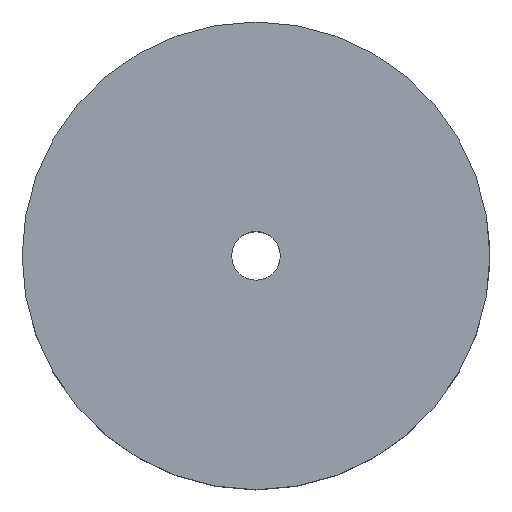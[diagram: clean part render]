
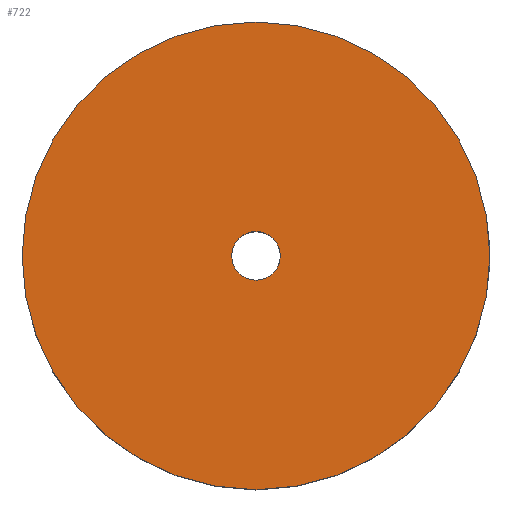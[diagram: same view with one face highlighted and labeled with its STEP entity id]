
A CAD part, top view. The second image highlights one B-rep face of the part: STEP entity #722.
In plain terms, the highlighted planar face has unit normal (0, 0, 1).
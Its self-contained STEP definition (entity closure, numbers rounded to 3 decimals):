
#31 = CYLINDRICAL_SURFACE('',#32,40.);
#32 = AXIS2_PLACEMENT_3D('',#33,#34,#35);
#33 = CARTESIAN_POINT('',(0.,0.,0.));
#34 = DIRECTION('',(-0.,-0.,-1.));
#35 = DIRECTION('',(1.,0.,0.));
#176 = VERTEX_POINT('',#177);
#177 = CARTESIAN_POINT('',(40.,0.,25.));
#198 = EDGE_CURVE('',#176,#176,#199,.T.);
#199 = SURFACE_CURVE('',#200,(#205,#212),.PCURVE_S1.);
#200 = CIRCLE('',#201,40.);
#201 = AXIS2_PLACEMENT_3D('',#202,#203,#204);
#202 = CARTESIAN_POINT('',(0.,0.,25.));
#203 = DIRECTION('',(0.,0.,1.));
#204 = DIRECTION('',(1.,0.,0.));
#205 = PCURVE('',#31,#206);
#206 = DEFINITIONAL_REPRESENTATION('',(#207),#211);
#207 = LINE('',#208,#209);
#208 = CARTESIAN_POINT('',(-0.,-25.));
#209 = VECTOR('',#210,1.);
#210 = DIRECTION('',(-1.,0.));
#211 = ( GEOMETRIC_REPRESENTATION_CONTEXT(2) 
PARAMETRIC_REPRESENTATION_CONTEXT() REPRESENTATION_CONTEXT('2D SPACE',''
  ) );
#212 = PCURVE('',#213,#218);
#213 = PLANE('',#214);
#214 = AXIS2_PLACEMENT_3D('',#215,#216,#217);
#215 = CARTESIAN_POINT('',(0.,0.,
    25.));
#216 = DIRECTION('',(0.,0.,1.));
#217 = DIRECTION('',(1.,0.,-0.));
#218 = DEFINITIONAL_REPRESENTATION('',(#219),#223);
#219 = CIRCLE('',#220,40.);
#220 = AXIS2_PLACEMENT_2D('',#221,#222);
#221 = CARTESIAN_POINT('',(0.,0.));
#222 = DIRECTION('',(1.,0.));
#223 = ( GEOMETRIC_REPRESENTATION_CONTEXT(2) 
PARAMETRIC_REPRESENTATION_CONTEXT() REPRESENTATION_CONTEXT('2D SPACE',''
  ) );
#344 = CYLINDRICAL_SURFACE('',#345,4.15);
#345 = AXIS2_PLACEMENT_3D('',#346,#347,#348);
#346 = CARTESIAN_POINT('',(0.,0.,-1.));
#347 = DIRECTION('',(-0.,-0.,-1.));
#348 = DIRECTION('',(1.,0.,0.));
#722 = ADVANCED_FACE('',(#723,#726),#213,.T.);
#723 = FACE_BOUND('',#724,.T.);
#724 = EDGE_LOOP('',(#725));
#725 = ORIENTED_EDGE('',*,*,#198,.T.);
#726 = FACE_BOUND('',#727,.T.);
#727 = EDGE_LOOP('',(#728));
#728 = ORIENTED_EDGE('',*,*,#729,.T.);
#729 = EDGE_CURVE('',#730,#730,#732,.T.);
#730 = VERTEX_POINT('',#731);
#731 = CARTESIAN_POINT('',(4.15,0.,25.));
#732 = SURFACE_CURVE('',#733,(#738,#749),.PCURVE_S1.);
#733 = CIRCLE('',#734,4.15);
#734 = AXIS2_PLACEMENT_3D('',#735,#736,#737);
#735 = CARTESIAN_POINT('',(0.,0.,25.));
#736 = DIRECTION('',(0.,0.,-1.));
#737 = DIRECTION('',(1.,0.,0.));
#738 = PCURVE('',#213,#739);
#739 = DEFINITIONAL_REPRESENTATION('',(#740),#748);
#740 = ( BOUNDED_CURVE() B_SPLINE_CURVE(2,(#741,#742,#743,#744,#745,#746
,#747),.UNSPECIFIED.,.T.,.F.) B_SPLINE_CURVE_WITH_KNOTS((1,2,2,2,2,1),(
    -2.094,0.,2.094,4.189,6.283,
8.378),.UNSPECIFIED.) CURVE() GEOMETRIC_REPRESENTATION_ITEM() 
RATIONAL_B_SPLINE_CURVE((1.,0.5,1.,0.5,1.,0.5,1.)) REPRESENTATION_ITEM(
  '') );
#741 = CARTESIAN_POINT('',(4.15,0.));
#742 = CARTESIAN_POINT('',(4.15,-7.188));
#743 = CARTESIAN_POINT('',(-2.075,-3.594));
#744 = CARTESIAN_POINT('',(-8.3,0.));
#745 = CARTESIAN_POINT('',(-2.075,3.594));
#746 = CARTESIAN_POINT('',(4.15,7.188));
#747 = CARTESIAN_POINT('',(4.15,0.));
#748 = ( GEOMETRIC_REPRESENTATION_CONTEXT(2) 
PARAMETRIC_REPRESENTATION_CONTEXT() REPRESENTATION_CONTEXT('2D SPACE',''
  ) );
#749 = PCURVE('',#344,#750);
#750 = DEFINITIONAL_REPRESENTATION('',(#751),#755);
#751 = LINE('',#752,#753);
#752 = CARTESIAN_POINT('',(-6.283,-26.));
#753 = VECTOR('',#754,1.);
#754 = DIRECTION('',(1.,-0.));
#755 = ( GEOMETRIC_REPRESENTATION_CONTEXT(2) 
PARAMETRIC_REPRESENTATION_CONTEXT() REPRESENTATION_CONTEXT('2D SPACE',''
  ) );
